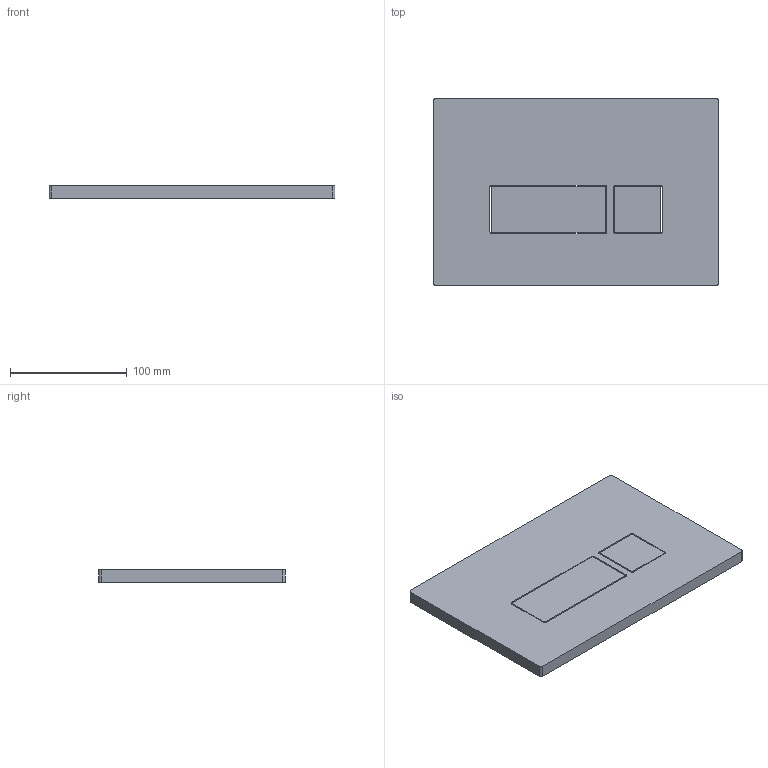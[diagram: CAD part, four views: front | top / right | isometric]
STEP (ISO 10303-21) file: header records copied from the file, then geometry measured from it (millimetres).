
FILE_DESCRIPTION(('FreeCAD Model'),'2;1');
FILE_NAME('Open CASCADE Shape Model','2024-08-10T20:07:31',('Author'),( ''),'Open CASCADE STEP processor 7.6','FreeCAD','Unknown');
FILE_SCHEMA(('AUTOMOTIVE_DESIGN { 1 0 10303 214 1 1 1 1 }'));
Length unit declared in the file: millimetre
Products named in the file (5): TopLevelAssembly; Wyciąganie004; Wyciąganie001; Wyciąganie002; Wyciąganie003
Assembly tree (4 placements, depth 3):
  TopLevelAssembly
    Wyciąganie004
      Wyciąganie001
      Wyciąganie002
      Wyciąganie003
Bounding box: 245 x 160 x 10.64 mm (x, y, z)
Volume: 412388.3 mm3; surface area: 95415.9 mm2
Topology: 3 solids, 3 shells, 46 faces, 120 edges, 80 vertices
Faces by surface type: plane 26, cylinder 20
Entity records: 1542 total; most frequent: DIRECTION 262, CARTESIAN_POINT 251, ORIENTED_EDGE 240, EDGE_CURVE 120, AXIS2_PLACEMENT_3D 91, VERTEX_POINT 80, LINE 80, VECTOR 80
